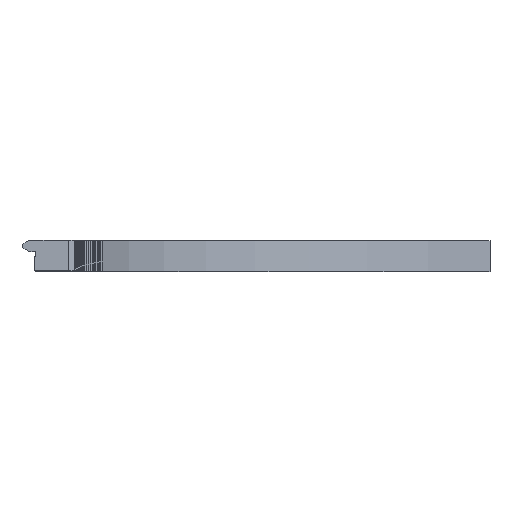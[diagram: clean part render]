
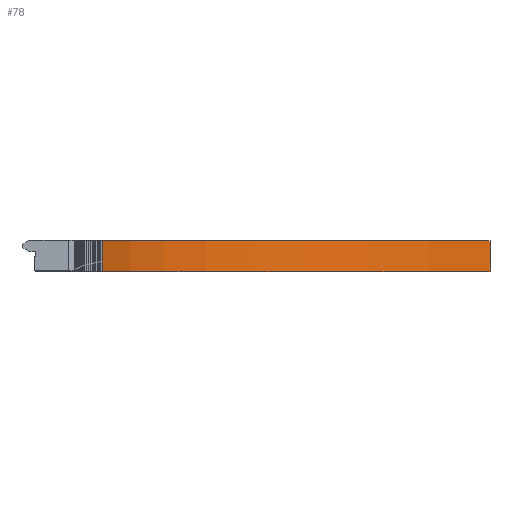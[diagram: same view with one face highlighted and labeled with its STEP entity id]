
A CAD part, top view. The second image highlights one B-rep face of the part: STEP entity #78.
In plain terms, the highlighted cylindrical face has radius 167 mm (diameter 334 mm), a partial arc.
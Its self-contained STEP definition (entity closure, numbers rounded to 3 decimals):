
#78 = ADVANCED_FACE( '', ( #191 ), #192, .F. );
#191 = FACE_OUTER_BOUND( '', #424, .T. );
#192 = CYLINDRICAL_SURFACE( '', #425, 167. );
#424 = EDGE_LOOP( '', ( #755, #756, #757, #758 ) );
#425 = AXIS2_PLACEMENT_3D( '', #759, #760, #761 );
#755 = ORIENTED_EDGE( '', *, *, #1540, .F. );
#756 = ORIENTED_EDGE( '', *, *, #1617, .T. );
#757 = ORIENTED_EDGE( '', *, *, #1618, .T. );
#758 = ORIENTED_EDGE( '', *, *, #1529, .T. );
#759 = CARTESIAN_POINT( '', ( 0., 0., 0. ) );
#760 = DIRECTION( '', ( 0., 1., 0. ) );
#761 = DIRECTION( '', ( 0., 0., -1. ) );
#1529 = EDGE_CURVE( '', #1802, #1818, #1820, .F. );
#1540 = EDGE_CURVE( '', #1839, #1818, #1841, .T. );
#1617 = EDGE_CURVE( '', #1839, #1993, #1994, .T. );
#1618 = EDGE_CURVE( '', #1993, #1802, #1995, .T. );
#1802 = VERTEX_POINT( '', #2277 );
#1818 = VERTEX_POINT( '', #2313 );
#1820 = LINE( '', #2316, #2317 );
#1839 = VERTEX_POINT( '', #2340 );
#1841 = CIRCLE( '', #2343, 167. );
#1993 = VERTEX_POINT( '', #2533 );
#1994 = LINE( '', #2534, #2535 );
#1995 = CIRCLE( '', #2536, 167. );
#2277 = CARTESIAN_POINT( '', ( -1.5, 0., -166.993 ) );
#2313 = CARTESIAN_POINT( '', ( -1.5, 12.25, -166.993 ) );
#2316 = CARTESIAN_POINT( '', ( -1.5, 0., -166.993 ) );
#2317 = VECTOR( '', #2956, 1000. );
#2340 = CARTESIAN_POINT( '', ( -155.849, 12.25, -60. ) );
#2343 = AXIS2_PLACEMENT_3D( '', #2980, #2981, #2982 );
#2533 = CARTESIAN_POINT( '', ( -155.849, 0., -60. ) );
#2534 = CARTESIAN_POINT( '', ( -155.849, 0., -60. ) );
#2535 = VECTOR( '', #3135, 1000. );
#2536 = AXIS2_PLACEMENT_3D( '', #3136, #3137, #3138 );
#2956 = DIRECTION( '', ( 0., -1., 0. ) );
#2980 = CARTESIAN_POINT( '', ( 0., 12.25, 0. ) );
#2981 = DIRECTION( '', ( 0., -1., 0. ) );
#2982 = DIRECTION( '', ( 0., 0., -1. ) );
#3135 = DIRECTION( '', ( 0., -1., 0. ) );
#3136 = CARTESIAN_POINT( '', ( 0., 0., 0. ) );
#3137 = DIRECTION( '', ( 0., -1., 0. ) );
#3138 = DIRECTION( '', ( 0., 0., -1. ) );
